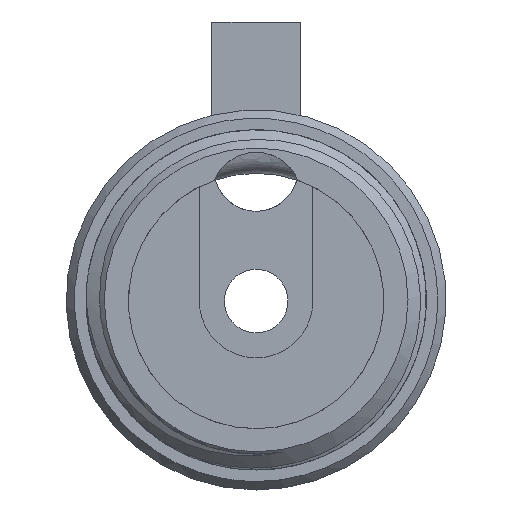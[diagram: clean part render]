
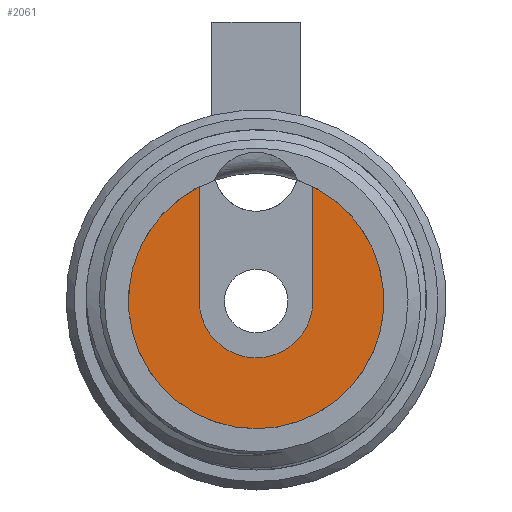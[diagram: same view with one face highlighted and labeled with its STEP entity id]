
A CAD part, front view. The second image highlights one B-rep face of the part: STEP entity #2061.
In plain terms, the highlighted planar face has unit normal (0, -1, 0).
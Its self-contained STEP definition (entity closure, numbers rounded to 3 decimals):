
#2002=CARTESIAN_POINT('',(0.,58.,0.));
#2003=DIRECTION('',(0.,-1.,0.));
#2004=DIRECTION('',(1.,0.,0.));
#2005=AXIS2_PLACEMENT_3D('',#2002,#2003,#2004);
#2006=PLANE('',#2005);
#2007=CARTESIAN_POINT('',(4.999,58.,-70.));
#2008=VERTEX_POINT('',#2007);
#2009=CARTESIAN_POINT('',(4.999,58.,-60.022));
#2010=VERTEX_POINT('',#2009);
#2011=CARTESIAN_POINT('',(4.999,58.,-70.));
#2012=DIRECTION('',(0.,-0.,1.));
#2013=VECTOR('',#2012,9.978);
#2014=LINE('',#2011,#2013);
#2015=EDGE_CURVE('',#2008,#2010,#2014,.T.);
#2016=ORIENTED_EDGE('',*,*,#2015,.F.);
#2017=CARTESIAN_POINT('',(-0.,58.,-75.1));
#2018=VERTEX_POINT('',#2017);
#2019=CARTESIAN_POINT('',(0.,58.,-70.1));
#2020=DIRECTION('',(0.,-1.,0.));
#2021=DIRECTION('',(0.,0.,-1.));
#2022=AXIS2_PLACEMENT_3D('',#2019,#2020,#2021);
#2023=CIRCLE('',#2022,5.);
#2024=EDGE_CURVE('',#2018,#2008,#2023,.T.);
#2025=ORIENTED_EDGE('',*,*,#2024,.F.);
#2026=CARTESIAN_POINT('',(-4.999,58.,-70.));
#2027=VERTEX_POINT('',#2026);
#2028=CARTESIAN_POINT('',(0.,58.,-70.1));
#2029=DIRECTION('',(0.,-1.,0.));
#2030=DIRECTION('',(0.,0.,-1.));
#2031=AXIS2_PLACEMENT_3D('',#2028,#2029,#2030);
#2032=CIRCLE('',#2031,5.);
#2033=EDGE_CURVE('',#2027,#2018,#2032,.T.);
#2034=ORIENTED_EDGE('',*,*,#2033,.F.);
#2035=CARTESIAN_POINT('',(-4.999,58.,-60.022));
#2036=VERTEX_POINT('',#2035);
#2037=CARTESIAN_POINT('',(-4.999,58.,-70.));
#2038=DIRECTION('',(0.,0.,1.));
#2039=VECTOR('',#2038,9.978);
#2040=LINE('',#2037,#2039);
#2041=EDGE_CURVE('',#2027,#2036,#2040,.T.);
#2042=ORIENTED_EDGE('',*,*,#2041,.T.);
#2043=CARTESIAN_POINT('',(-0.,58.,-81.35));
#2044=VERTEX_POINT('',#2043);
#2045=CARTESIAN_POINT('',(0.,58.,-70.1));
#2046=DIRECTION('',(0.,-1.,0.));
#2047=DIRECTION('',(0.,0.,-1.));
#2048=AXIS2_PLACEMENT_3D('',#2045,#2046,#2047);
#2049=CIRCLE('',#2048,11.25);
#2050=EDGE_CURVE('',#2036,#2044,#2049,.T.);
#2051=ORIENTED_EDGE('',*,*,#2050,.T.);
#2052=CARTESIAN_POINT('',(0.,58.,-70.1));
#2053=DIRECTION('',(0.,-1.,0.));
#2054=DIRECTION('',(0.,0.,-1.));
#2055=AXIS2_PLACEMENT_3D('',#2052,#2053,#2054);
#2056=CIRCLE('',#2055,11.25);
#2057=EDGE_CURVE('',#2044,#2010,#2056,.T.);
#2058=ORIENTED_EDGE('',*,*,#2057,.T.);
#2059=EDGE_LOOP('',(#2016,#2025,#2034,#2042,#2051,#2058));
#2060=FACE_BOUND('',#2059,.T.);
#2061=ADVANCED_FACE('',(#2060),#2006,.T.);
